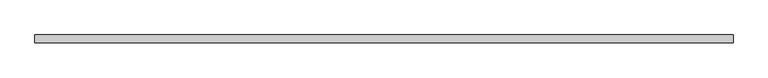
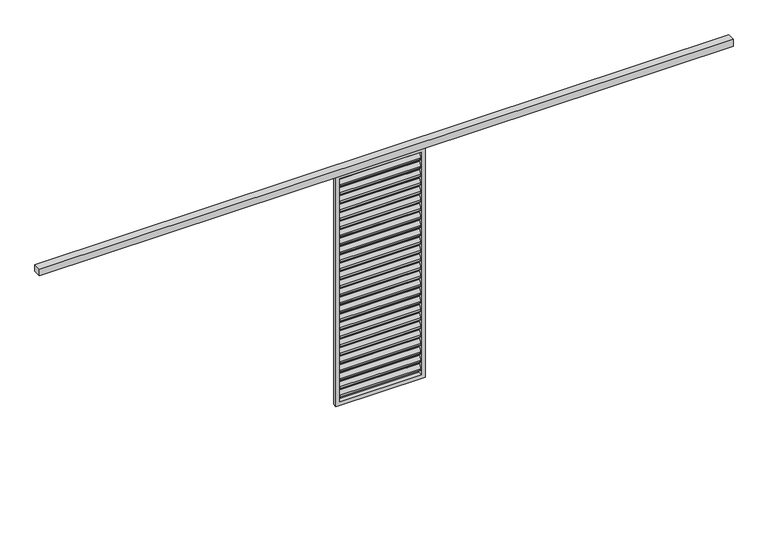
"""IFC4 building model written with IfcOpenShell, lengths in millimetres: proxy geometry, Renson_Amani_Loggia_Paro_Aluminium_Fix : Renson_Amani_Loggia_Paro_Aluminium_Fix."""

from ifc_helpers import new_model, si_unit, point, frame, frame_2d, origin, place, context, project, spatial, polyline, circle_curve, trimmed, segment, composite_curve, outline, extrude, source, transform, mapped, element, save


def generic_models_aef4ee00(model_context):
    return source(origin(), model_context, "Body", "SweptSolid", [
        extrude(outline(polyline([(3550.0, 46.0), (3550.0, -34.0), (-3450.0, -34.0), (-3450.0, 46.0), (3550.0, 46.0)])), frame((0.0, 0.0, 2500.0), z_axis=(0.0, 0.0, 1.0), x_axis=(1.0, 0.0, 0.0)), (0.0, 0.0, 1.0), 70.0),
        extrude(outline(composite_curve([segment(trimmed(circle_curve(frame_2d((12.6675921, 2432.6587719)), 3.0), [point((10.1515804, 2434.292689))], [point((15.6675921, 2432.6587719))], False, "CARTESIAN"), True, "CONTINUOUS"), segment(polyline([(15.6675921, 2432.6587719), (15.6675921, 2414.2979873)]), True, "CONTINUOUS"), segment(trimmed(circle_curve(frame_2d((12.6675921, 2414.2979873)), 3.0), [point((15.6675921, 2414.2979873))], [point((15.1836038, 2412.6640702))], False, "CARTESIAN"), True, "CONTINUOUS"), segment(polyline([(15.1836038, 2412.6640702), (-8.8163962, 2375.707311)]), True, "CONTINUOUS"), segment(trimmed(circle_curve(frame_2d((-11.3324079, 2377.3412281)), 3.0), [point((-8.8163962, 2375.707311))], [point((-14.3324079, 2377.3412281))], False, "CARTESIAN"), True, "CONTINUOUS"), segment(polyline([(-14.3324079, 2377.3412281), (-14.3324079, 2396.5906532), (10.1515804, 2434.292689)]), True, "CONTINUOUS")], self_intersect=False)), frame((-410.0, 0.0, 0.0), z_axis=(1.0, 0.0, 0.0), x_axis=(0.0, 1.0, 0.0)), (0.0, 0.0, 1.0), 820.0),
        extrude(outline(composite_curve([segment(trimmed(circle_curve(frame_2d((12.6675921, 2342.6587719)), 3.0), [point((10.1515804, 2344.292689))], [point((15.6675921, 2342.6587719))], False, "CARTESIAN"), True, "CONTINUOUS"), segment(polyline([(15.6675921, 2342.6587719), (15.6675921, 2324.2979873)]), True, "CONTINUOUS"), segment(trimmed(circle_curve(frame_2d((12.6675921, 2324.2979873)), 3.0), [point((15.6675921, 2324.2979873))], [point((15.1836038, 2322.6640702))], False, "CARTESIAN"), True, "CONTINUOUS"), segment(polyline([(15.1836038, 2322.6640702), (-8.8163962, 2285.707311)]), True, "CONTINUOUS"), segment(trimmed(circle_curve(frame_2d((-11.3324079, 2287.3412281)), 3.0), [point((-8.8163962, 2285.707311))], [point((-14.3324079, 2287.3412281))], False, "CARTESIAN"), True, "CONTINUOUS"), segment(polyline([(-14.3324079, 2287.3412281), (-14.3324079, 2306.5906532), (10.1515804, 2344.292689)]), True, "CONTINUOUS")], self_intersect=False)), frame((-410.0, 0.0, 0.0), z_axis=(1.0, 0.0, 0.0), x_axis=(0.0, 1.0, 0.0)), (0.0, 0.0, 1.0), 820.0),
        extrude(outline(composite_curve([segment(trimmed(circle_curve(frame_2d((12.6675921, 2252.6587719)), 3.0), [point((10.1515804, 2254.292689))], [point((15.6675921, 2252.6587719))], False, "CARTESIAN"), True, "CONTINUOUS"), segment(polyline([(15.6675921, 2252.6587719), (15.6675921, 2234.2979873)]), True, "CONTINUOUS"), segment(trimmed(circle_curve(frame_2d((12.6675921, 2234.2979873)), 3.0), [point((15.6675921, 2234.2979873))], [point((15.1836038, 2232.6640702))], False, "CARTESIAN"), True, "CONTINUOUS"), segment(polyline([(15.1836038, 2232.6640702), (-8.8163962, 2195.707311)]), True, "CONTINUOUS"), segment(trimmed(circle_curve(frame_2d((-11.3324079, 2197.3412281)), 3.0), [point((-8.8163962, 2195.707311))], [point((-14.3324079, 2197.3412281))], False, "CARTESIAN"), True, "CONTINUOUS"), segment(polyline([(-14.3324079, 2197.3412281), (-14.3324079, 2216.5906532), (10.1515804, 2254.292689)]), True, "CONTINUOUS")], self_intersect=False)), frame((-410.0, 0.0, 0.0), z_axis=(1.0, 0.0, 0.0), x_axis=(0.0, 1.0, 0.0)), (0.0, 0.0, 1.0), 820.0),
        extrude(outline(composite_curve([segment(trimmed(circle_curve(frame_2d((12.6675921, 2162.6587719)), 3.0), [point((10.1515804, 2164.292689))], [point((15.6675921, 2162.6587719))], False, "CARTESIAN"), True, "CONTINUOUS"), segment(polyline([(15.6675921, 2162.6587719), (15.6675921, 2144.2979873)]), True, "CONTINUOUS"), segment(trimmed(circle_curve(frame_2d((12.6675921, 2144.2979873)), 3.0), [point((15.6675921, 2144.2979873))], [point((15.1836038, 2142.6640702))], False, "CARTESIAN"), True, "CONTINUOUS"), segment(polyline([(15.1836038, 2142.6640702), (-8.8163962, 2105.707311)]), True, "CONTINUOUS"), segment(trimmed(circle_curve(frame_2d((-11.3324079, 2107.3412281)), 3.0), [point((-8.8163962, 2105.707311))], [point((-14.3324079, 2107.3412281))], False, "CARTESIAN"), True, "CONTINUOUS"), segment(polyline([(-14.3324079, 2107.3412281), (-14.3324079, 2126.5906532), (10.1515804, 2164.292689)]), True, "CONTINUOUS")], self_intersect=False)), frame((-410.0, 0.0, 0.0), z_axis=(1.0, 0.0, 0.0), x_axis=(0.0, 1.0, 0.0)), (0.0, 0.0, 1.0), 820.0),
        extrude(outline(composite_curve([segment(trimmed(circle_curve(frame_2d((12.6675921, 2072.6587719)), 3.0), [point((10.1515804, 2074.292689))], [point((15.6675921, 2072.6587719))], False, "CARTESIAN"), True, "CONTINUOUS"), segment(polyline([(15.6675921, 2072.6587719), (15.6675921, 2054.2979873)]), True, "CONTINUOUS"), segment(trimmed(circle_curve(frame_2d((12.6675921, 2054.2979873)), 3.0), [point((15.6675921, 2054.2979873))], [point((15.1836038, 2052.6640702))], False, "CARTESIAN"), True, "CONTINUOUS"), segment(polyline([(15.1836038, 2052.6640702), (-8.8163962, 2015.707311)]), True, "CONTINUOUS"), segment(trimmed(circle_curve(frame_2d((-11.3324079, 2017.3412281)), 3.0), [point((-8.8163962, 2015.707311))], [point((-14.3324079, 2017.3412281))], False, "CARTESIAN"), True, "CONTINUOUS"), segment(polyline([(-14.3324079, 2017.3412281), (-14.3324079, 2036.5906532), (10.1515804, 2074.292689)]), True, "CONTINUOUS")], self_intersect=False)), frame((-410.0, 0.0, 0.0), z_axis=(1.0, 0.0, 0.0), x_axis=(0.0, 1.0, 0.0)), (0.0, 0.0, 1.0), 820.0),
        extrude(outline(composite_curve([segment(trimmed(circle_curve(frame_2d((12.6675921, 1982.6587719)), 3.0), [point((10.1515804, 1984.292689))], [point((15.6675921, 1982.6587719))], False, "CARTESIAN"), True, "CONTINUOUS"), segment(polyline([(15.6675921, 1982.6587719), (15.6675921, 1964.2979873)]), True, "CONTINUOUS"), segment(trimmed(circle_curve(frame_2d((12.6675921, 1964.2979873)), 3.0), [point((15.6675921, 1964.2979873))], [point((15.1836038, 1962.6640702))], False, "CARTESIAN"), True, "CONTINUOUS"), segment(polyline([(15.1836038, 1962.6640702), (-8.8163962, 1925.707311)]), True, "CONTINUOUS"), segment(trimmed(circle_curve(frame_2d((-11.3324079, 1927.3412281)), 3.0), [point((-8.8163962, 1925.707311))], [point((-14.3324079, 1927.3412281))], False, "CARTESIAN"), True, "CONTINUOUS"), segment(polyline([(-14.3324079, 1927.3412281), (-14.3324079, 1946.5906532), (10.1515804, 1984.292689)]), True, "CONTINUOUS")], self_intersect=False)), frame((-410.0, 0.0, 0.0), z_axis=(1.0, 0.0, 0.0), x_axis=(0.0, 1.0, 0.0)), (0.0, 0.0, 1.0), 820.0),
        extrude(outline(composite_curve([segment(trimmed(circle_curve(frame_2d((12.6675921, 1892.6587719)), 3.0), [point((10.1515804, 1894.292689))], [point((15.6675921, 1892.6587719))], False, "CARTESIAN"), True, "CONTINUOUS"), segment(polyline([(15.6675921, 1892.6587719), (15.6675921, 1874.2979873)]), True, "CONTINUOUS"), segment(trimmed(circle_curve(frame_2d((12.6675921, 1874.2979873)), 3.0), [point((15.6675921, 1874.2979873))], [point((15.1836038, 1872.6640702))], False, "CARTESIAN"), True, "CONTINUOUS"), segment(polyline([(15.1836038, 1872.6640702), (-8.8163962, 1835.707311)]), True, "CONTINUOUS"), segment(trimmed(circle_curve(frame_2d((-11.3324079, 1837.3412281)), 3.0), [point((-8.8163962, 1835.707311))], [point((-14.3324079, 1837.3412281))], False, "CARTESIAN"), True, "CONTINUOUS"), segment(polyline([(-14.3324079, 1837.3412281), (-14.3324079, 1856.5906532), (10.1515804, 1894.292689)]), True, "CONTINUOUS")], self_intersect=False)), frame((-410.0, 0.0, 0.0), z_axis=(1.0, 0.0, 0.0), x_axis=(0.0, 1.0, 0.0)), (0.0, 0.0, 1.0), 820.0),
        extrude(outline(composite_curve([segment(trimmed(circle_curve(frame_2d((12.6675921, 1802.6587719)), 3.0), [point((10.1515804, 1804.292689))], [point((15.6675921, 1802.6587719))], False, "CARTESIAN"), True, "CONTINUOUS"), segment(polyline([(15.6675921, 1802.6587719), (15.6675921, 1784.2979873)]), True, "CONTINUOUS"), segment(trimmed(circle_curve(frame_2d((12.6675921, 1784.2979873)), 3.0), [point((15.6675921, 1784.2979873))], [point((15.1836038, 1782.6640702))], False, "CARTESIAN"), True, "CONTINUOUS"), segment(polyline([(15.1836038, 1782.6640702), (-8.8163962, 1745.707311)]), True, "CONTINUOUS"), segment(trimmed(circle_curve(frame_2d((-11.3324079, 1747.3412281)), 3.0), [point((-8.8163962, 1745.707311))], [point((-14.3324079, 1747.3412281))], False, "CARTESIAN"), True, "CONTINUOUS"), segment(polyline([(-14.3324079, 1747.3412281), (-14.3324079, 1766.5906532), (10.1515804, 1804.292689)]), True, "CONTINUOUS")], self_intersect=False)), frame((-410.0, 0.0, 0.0), z_axis=(1.0, 0.0, 0.0), x_axis=(0.0, 1.0, 0.0)), (0.0, 0.0, 1.0), 820.0),
        extrude(outline(composite_curve([segment(trimmed(circle_curve(frame_2d((12.6675921, 1712.6587719)), 3.0), [point((10.1515804, 1714.292689))], [point((15.6675921, 1712.6587719))], False, "CARTESIAN"), True, "CONTINUOUS"), segment(polyline([(15.6675921, 1712.6587719), (15.6675921, 1694.2979873)]), True, "CONTINUOUS"), segment(trimmed(circle_curve(frame_2d((12.6675921, 1694.2979873)), 3.0), [point((15.6675921, 1694.2979873))], [point((15.1836038, 1692.6640702))], False, "CARTESIAN"), True, "CONTINUOUS"), segment(polyline([(15.1836038, 1692.6640702), (-8.8163962, 1655.707311)]), True, "CONTINUOUS"), segment(trimmed(circle_curve(frame_2d((-11.3324079, 1657.3412281)), 3.0), [point((-8.8163962, 1655.707311))], [point((-14.3324079, 1657.3412281))], False, "CARTESIAN"), True, "CONTINUOUS"), segment(polyline([(-14.3324079, 1657.3412281), (-14.3324079, 1676.5906532), (10.1515804, 1714.292689)]), True, "CONTINUOUS")], self_intersect=False)), frame((-410.0, 0.0, 0.0), z_axis=(1.0, 0.0, 0.0), x_axis=(0.0, 1.0, 0.0)), (0.0, 0.0, 1.0), 820.0),
        extrude(outline(composite_curve([segment(trimmed(circle_curve(frame_2d((12.6675921, 1622.6587719)), 3.0), [point((10.1515804, 1624.292689))], [point((15.6675921, 1622.6587719))], False, "CARTESIAN"), True, "CONTINUOUS"), segment(polyline([(15.6675921, 1622.6587719), (15.6675921, 1604.2979873)]), True, "CONTINUOUS"), segment(trimmed(circle_curve(frame_2d((12.6675921, 1604.2979873)), 3.0), [point((15.6675921, 1604.2979873))], [point((15.1836038, 1602.6640702))], False, "CARTESIAN"), True, "CONTINUOUS"), segment(polyline([(15.1836038, 1602.6640702), (-8.8163962, 1565.707311)]), True, "CONTINUOUS"), segment(trimmed(circle_curve(frame_2d((-11.3324079, 1567.3412281)), 3.0), [point((-8.8163962, 1565.707311))], [point((-14.3324079, 1567.3412281))], False, "CARTESIAN"), True, "CONTINUOUS"), segment(polyline([(-14.3324079, 1567.3412281), (-14.3324079, 1586.5906532), (10.1515804, 1624.292689)]), True, "CONTINUOUS")], self_intersect=False)), frame((-410.0, 0.0, 0.0), z_axis=(1.0, 0.0, 0.0), x_axis=(0.0, 1.0, 0.0)), (0.0, 0.0, 1.0), 820.0),
        extrude(outline(composite_curve([segment(trimmed(circle_curve(frame_2d((12.6675921, 1532.6587719)), 3.0), [point((10.1515804, 1534.292689))], [point((15.6675921, 1532.6587719))], False, "CARTESIAN"), True, "CONTINUOUS"), segment(polyline([(15.6675921, 1532.6587719), (15.6675921, 1514.2979873)]), True, "CONTINUOUS"), segment(trimmed(circle_curve(frame_2d((12.6675921, 1514.2979873)), 3.0), [point((15.6675921, 1514.2979873))], [point((15.1836038, 1512.6640702))], False, "CARTESIAN"), True, "CONTINUOUS"), segment(polyline([(15.1836038, 1512.6640702), (-8.8163962, 1475.707311)]), True, "CONTINUOUS"), segment(trimmed(circle_curve(frame_2d((-11.3324079, 1477.3412281)), 3.0), [point((-8.8163962, 1475.707311))], [point((-14.3324079, 1477.3412281))], False, "CARTESIAN"), True, "CONTINUOUS"), segment(polyline([(-14.3324079, 1477.3412281), (-14.3324079, 1496.5906532), (10.1515804, 1534.292689)]), True, "CONTINUOUS")], self_intersect=False)), frame((-410.0, 0.0, 0.0), z_axis=(1.0, 0.0, 0.0), x_axis=(0.0, 1.0, 0.0)), (0.0, 0.0, 1.0), 820.0),
        extrude(outline(composite_curve([segment(trimmed(circle_curve(frame_2d((12.6675921, 1442.6587719)), 3.0), [point((10.1515804, 1444.292689))], [point((15.6675921, 1442.6587719))], False, "CARTESIAN"), True, "CONTINUOUS"), segment(polyline([(15.6675921, 1442.6587719), (15.6675921, 1424.2979873)]), True, "CONTINUOUS"), segment(trimmed(circle_curve(frame_2d((12.6675921, 1424.2979873)), 3.0), [point((15.6675921, 1424.2979873))], [point((15.1836038, 1422.6640702))], False, "CARTESIAN"), True, "CONTINUOUS"), segment(polyline([(15.1836038, 1422.6640702), (-8.8163962, 1385.707311)]), True, "CONTINUOUS"), segment(trimmed(circle_curve(frame_2d((-11.3324079, 1387.3412281)), 3.0), [point((-8.8163962, 1385.707311))], [point((-14.3324079, 1387.3412281))], False, "CARTESIAN"), True, "CONTINUOUS"), segment(polyline([(-14.3324079, 1387.3412281), (-14.3324079, 1406.5906532), (10.1515804, 1444.292689)]), True, "CONTINUOUS")], self_intersect=False)), frame((-410.0, 0.0, 0.0), z_axis=(1.0, 0.0, 0.0), x_axis=(0.0, 1.0, 0.0)), (0.0, 0.0, 1.0), 820.0),
        extrude(outline(composite_curve([segment(trimmed(circle_curve(frame_2d((12.6675921, 1352.6587719)), 3.0), [point((10.1515804, 1354.292689))], [point((15.6675921, 1352.6587719))], False, "CARTESIAN"), True, "CONTINUOUS"), segment(polyline([(15.6675921, 1352.6587719), (15.6675921, 1334.2979873)]), True, "CONTINUOUS"), segment(trimmed(circle_curve(frame_2d((12.6675921, 1334.2979873)), 3.0), [point((15.6675921, 1334.2979873))], [point((15.1836038, 1332.6640702))], False, "CARTESIAN"), True, "CONTINUOUS"), segment(polyline([(15.1836038, 1332.6640702), (-8.8163962, 1295.707311)]), True, "CONTINUOUS"), segment(trimmed(circle_curve(frame_2d((-11.3324079, 1297.3412281)), 3.0), [point((-8.8163962, 1295.707311))], [point((-14.3324079, 1297.3412281))], False, "CARTESIAN"), True, "CONTINUOUS"), segment(polyline([(-14.3324079, 1297.3412281), (-14.3324079, 1316.5906532), (10.1515804, 1354.292689)]), True, "CONTINUOUS")], self_intersect=False)), frame((-410.0, 0.0, 0.0), z_axis=(1.0, 0.0, 0.0), x_axis=(0.0, 1.0, 0.0)), (0.0, 0.0, 1.0), 820.0),
        extrude(outline(composite_curve([segment(trimmed(circle_curve(frame_2d((12.6675921, 1262.6587719)), 3.0), [point((10.1515804, 1264.292689))], [point((15.6675921, 1262.6587719))], False, "CARTESIAN"), True, "CONTINUOUS"), segment(polyline([(15.6675921, 1262.6587719), (15.6675921, 1244.2979873)]), True, "CONTINUOUS"), segment(trimmed(circle_curve(frame_2d((12.6675921, 1244.2979873)), 3.0), [point((15.6675921, 1244.2979873))], [point((15.1836038, 1242.6640702))], False, "CARTESIAN"), True, "CONTINUOUS"), segment(polyline([(15.1836038, 1242.6640702), (-8.8163962, 1205.707311)]), True, "CONTINUOUS"), segment(trimmed(circle_curve(frame_2d((-11.3324079, 1207.3412281)), 3.0), [point((-8.8163962, 1205.707311))], [point((-14.3324079, 1207.3412281))], False, "CARTESIAN"), True, "CONTINUOUS"), segment(polyline([(-14.3324079, 1207.3412281), (-14.3324079, 1226.5906532), (10.1515804, 1264.292689)]), True, "CONTINUOUS")], self_intersect=False)), frame((-410.0, 0.0, 0.0), z_axis=(1.0, 0.0, 0.0), x_axis=(0.0, 1.0, 0.0)), (0.0, 0.0, 1.0), 820.0),
        extrude(outline(composite_curve([segment(trimmed(circle_curve(frame_2d((12.6675921, 1172.6587719)), 3.0), [point((10.1515804, 1174.292689))], [point((15.6675921, 1172.6587719))], False, "CARTESIAN"), True, "CONTINUOUS"), segment(polyline([(15.6675921, 1172.6587719), (15.6675921, 1154.2979873)]), True, "CONTINUOUS"), segment(trimmed(circle_curve(frame_2d((12.6675921, 1154.2979873)), 3.0), [point((15.6675921, 1154.2979873))], [point((15.1836038, 1152.6640702))], False, "CARTESIAN"), True, "CONTINUOUS"), segment(polyline([(15.1836038, 1152.6640702), (-8.8163962, 1115.707311)]), True, "CONTINUOUS"), segment(trimmed(circle_curve(frame_2d((-11.3324079, 1117.3412281)), 3.0), [point((-8.8163962, 1115.707311))], [point((-14.3324079, 1117.3412281))], False, "CARTESIAN"), True, "CONTINUOUS"), segment(polyline([(-14.3324079, 1117.3412281), (-14.3324079, 1136.5906532), (10.1515804, 1174.292689)]), True, "CONTINUOUS")], self_intersect=False)), frame((-410.0, 0.0, 0.0), z_axis=(1.0, 0.0, 0.0), x_axis=(0.0, 1.0, 0.0)), (0.0, 0.0, 1.0), 820.0),
        extrude(outline(composite_curve([segment(trimmed(circle_curve(frame_2d((12.6675921, 1082.6587719)), 3.0), [point((10.1515804, 1084.292689))], [point((15.6675921, 1082.6587719))], False, "CARTESIAN"), True, "CONTINUOUS"), segment(polyline([(15.6675921, 1082.6587719), (15.6675921, 1064.2979873)]), True, "CONTINUOUS"), segment(trimmed(circle_curve(frame_2d((12.6675921, 1064.2979873)), 3.0), [point((15.6675921, 1064.2979873))], [point((15.1836038, 1062.6640702))], False, "CARTESIAN"), True, "CONTINUOUS"), segment(polyline([(15.1836038, 1062.6640702), (-8.8163962, 1025.707311)]), True, "CONTINUOUS"), segment(trimmed(circle_curve(frame_2d((-11.3324079, 1027.3412281)), 3.0), [point((-8.8163962, 1025.707311))], [point((-14.3324079, 1027.3412281))], False, "CARTESIAN"), True, "CONTINUOUS"), segment(polyline([(-14.3324079, 1027.3412281), (-14.3324079, 1046.5906532), (10.1515804, 1084.292689)]), True, "CONTINUOUS")], self_intersect=False)), frame((-410.0, 0.0, 0.0), z_axis=(1.0, 0.0, 0.0), x_axis=(0.0, 1.0, 0.0)), (0.0, 0.0, 1.0), 820.0),
        extrude(outline(composite_curve([segment(trimmed(circle_curve(frame_2d((12.6675921, 992.6587719)), 3.0), [point((10.1515804, 994.292689))], [point((15.6675921, 992.6587719))], False, "CARTESIAN"), True, "CONTINUOUS"), segment(polyline([(15.6675921, 992.6587719), (15.6675921, 974.2979873)]), True, "CONTINUOUS"), segment(trimmed(circle_curve(frame_2d((12.6675921, 974.2979873)), 3.0), [point((15.6675921, 974.2979873))], [point((15.1836038, 972.6640702))], False, "CARTESIAN"), True, "CONTINUOUS"), segment(polyline([(15.1836038, 972.6640702), (-8.8163962, 935.707311)]), True, "CONTINUOUS"), segment(trimmed(circle_curve(frame_2d((-11.3324079, 937.3412281)), 3.0), [point((-8.8163962, 935.707311))], [point((-14.3324079, 937.3412281))], False, "CARTESIAN"), True, "CONTINUOUS"), segment(polyline([(-14.3324079, 937.3412281), (-14.3324079, 956.5906532), (10.1515804, 994.292689)]), True, "CONTINUOUS")], self_intersect=False)), frame((-410.0, 0.0, 0.0), z_axis=(1.0, 0.0, 0.0), x_axis=(0.0, 1.0, 0.0)), (0.0, 0.0, 1.0), 820.0),
        extrude(outline(composite_curve([segment(trimmed(circle_curve(frame_2d((12.6675921, 902.6587719)), 3.0), [point((10.1515804, 904.292689))], [point((15.6675921, 902.6587719))], False, "CARTESIAN"), True, "CONTINUOUS"), segment(polyline([(15.6675921, 902.6587719), (15.6675921, 884.2979873)]), True, "CONTINUOUS"), segment(trimmed(circle_curve(frame_2d((12.6675921, 884.2979873)), 3.0), [point((15.6675921, 884.2979873))], [point((15.1836038, 882.6640702))], False, "CARTESIAN"), True, "CONTINUOUS"), segment(polyline([(15.1836038, 882.6640702), (-8.8163962, 845.707311)]), True, "CONTINUOUS"), segment(trimmed(circle_curve(frame_2d((-11.3324079, 847.3412281)), 3.0), [point((-8.8163962, 845.707311))], [point((-14.3324079, 847.3412281))], False, "CARTESIAN"), True, "CONTINUOUS"), segment(polyline([(-14.3324079, 847.3412281), (-14.3324079, 866.5906532), (10.1515804, 904.292689)]), True, "CONTINUOUS")], self_intersect=False)), frame((-410.0, 0.0, 0.0), z_axis=(1.0, 0.0, 0.0), x_axis=(0.0, 1.0, 0.0)), (0.0, 0.0, 1.0), 820.0),
        extrude(outline(composite_curve([segment(trimmed(circle_curve(frame_2d((12.6675921, 812.6587719)), 3.0), [point((10.1515804, 814.292689))], [point((15.6675921, 812.6587719))], False, "CARTESIAN"), True, "CONTINUOUS"), segment(polyline([(15.6675921, 812.6587719), (15.6675921, 794.2979873)]), True, "CONTINUOUS"), segment(trimmed(circle_curve(frame_2d((12.6675921, 794.2979873)), 3.0), [point((15.6675921, 794.2979873))], [point((15.1836038, 792.6640702))], False, "CARTESIAN"), True, "CONTINUOUS"), segment(polyline([(15.1836038, 792.6640702), (-8.8163962, 755.707311)]), True, "CONTINUOUS"), segment(trimmed(circle_curve(frame_2d((-11.3324079, 757.3412281)), 3.0), [point((-8.8163962, 755.707311))], [point((-14.3324079, 757.3412281))], False, "CARTESIAN"), True, "CONTINUOUS"), segment(polyline([(-14.3324079, 757.3412281), (-14.3324079, 776.5906532), (10.1515804, 814.292689)]), True, "CONTINUOUS")], self_intersect=False)), frame((-410.0, 0.0, 0.0), z_axis=(1.0, 0.0, 0.0), x_axis=(0.0, 1.0, 0.0)), (0.0, 0.0, 1.0), 820.0),
        extrude(outline(composite_curve([segment(trimmed(circle_curve(frame_2d((12.6675921, 722.6587719)), 3.0), [point((10.1515804, 724.292689))], [point((15.6675921, 722.6587719))], False, "CARTESIAN"), True, "CONTINUOUS"), segment(polyline([(15.6675921, 722.6587719), (15.6675921, 704.2979873)]), True, "CONTINUOUS"), segment(trimmed(circle_curve(frame_2d((12.6675921, 704.2979873)), 3.0), [point((15.6675921, 704.2979873))], [point((15.1836038, 702.6640702))], False, "CARTESIAN"), True, "CONTINUOUS"), segment(polyline([(15.1836038, 702.6640702), (-8.8163962, 665.707311)]), True, "CONTINUOUS"), segment(trimmed(circle_curve(frame_2d((-11.3324079, 667.3412281)), 3.0), [point((-8.8163962, 665.707311))], [point((-14.3324079, 667.3412281))], False, "CARTESIAN"), True, "CONTINUOUS"), segment(polyline([(-14.3324079, 667.3412281), (-14.3324079, 686.5906532), (10.1515804, 724.292689)]), True, "CONTINUOUS")], self_intersect=False)), frame((-410.0, 0.0, 0.0), z_axis=(1.0, 0.0, 0.0), x_axis=(0.0, 1.0, 0.0)), (0.0, 0.0, 1.0), 820.0),
        extrude(outline(composite_curve([segment(trimmed(circle_curve(frame_2d((12.6675921, 632.6587719)), 3.0), [point((10.1515804, 634.292689))], [point((15.6675921, 632.6587719))], False, "CARTESIAN"), True, "CONTINUOUS"), segment(polyline([(15.6675921, 632.6587719), (15.6675921, 614.2979873)]), True, "CONTINUOUS"), segment(trimmed(circle_curve(frame_2d((12.6675921, 614.2979873)), 3.0), [point((15.6675921, 614.2979873))], [point((15.1836038, 612.6640702))], False, "CARTESIAN"), True, "CONTINUOUS"), segment(polyline([(15.1836038, 612.6640702), (-8.8163962, 575.707311)]), True, "CONTINUOUS"), segment(trimmed(circle_curve(frame_2d((-11.3324079, 577.3412281)), 3.0), [point((-8.8163962, 575.707311))], [point((-14.3324079, 577.3412281))], False, "CARTESIAN"), True, "CONTINUOUS"), segment(polyline([(-14.3324079, 577.3412281), (-14.3324079, 596.5906532), (10.1515804, 634.292689)]), True, "CONTINUOUS")], self_intersect=False)), frame((-410.0, 0.0, 0.0), z_axis=(1.0, 0.0, 0.0), x_axis=(0.0, 1.0, 0.0)), (0.0, 0.0, 1.0), 820.0),
        extrude(outline(composite_curve([segment(trimmed(circle_curve(frame_2d((12.6675921, 542.6587719)), 3.0), [point((10.1515804, 544.292689))], [point((15.6675921, 542.6587719))], False, "CARTESIAN"), True, "CONTINUOUS"), segment(polyline([(15.6675921, 542.6587719), (15.6675921, 524.2979873)]), True, "CONTINUOUS"), segment(trimmed(circle_curve(frame_2d((12.6675921, 524.2979873)), 3.0), [point((15.6675921, 524.2979873))], [point((15.1836038, 522.6640702))], False, "CARTESIAN"), True, "CONTINUOUS"), segment(polyline([(15.1836038, 522.6640702), (-8.8163962, 485.707311)]), True, "CONTINUOUS"), segment(trimmed(circle_curve(frame_2d((-11.3324079, 487.3412281)), 3.0), [point((-8.8163962, 485.707311))], [point((-14.3324079, 487.3412281))], False, "CARTESIAN"), True, "CONTINUOUS"), segment(polyline([(-14.3324079, 487.3412281), (-14.3324079, 506.5906532), (10.1515804, 544.292689)]), True, "CONTINUOUS")], self_intersect=False)), frame((-410.0, 0.0, 0.0), z_axis=(1.0, 0.0, 0.0), x_axis=(0.0, 1.0, 0.0)), (0.0, 0.0, 1.0), 820.0),
        extrude(outline(composite_curve([segment(trimmed(circle_curve(frame_2d((12.6675921, 452.6587719)), 3.0), [point((10.1515804, 454.292689))], [point((15.6675921, 452.6587719))], False, "CARTESIAN"), True, "CONTINUOUS"), segment(polyline([(15.6675921, 452.6587719), (15.6675921, 434.2979873)]), True, "CONTINUOUS"), segment(trimmed(circle_curve(frame_2d((12.6675921, 434.2979873)), 3.0), [point((15.6675921, 434.2979873))], [point((15.1836038, 432.6640702))], False, "CARTESIAN"), True, "CONTINUOUS"), segment(polyline([(15.1836038, 432.6640702), (-8.8163962, 395.707311)]), True, "CONTINUOUS"), segment(trimmed(circle_curve(frame_2d((-11.3324079, 397.3412281)), 3.0), [point((-8.8163962, 395.707311))], [point((-14.3324079, 397.3412281))], False, "CARTESIAN"), True, "CONTINUOUS"), segment(polyline([(-14.3324079, 397.3412281), (-14.3324079, 416.5906532), (10.1515804, 454.292689)]), True, "CONTINUOUS")], self_intersect=False)), frame((-410.0, 0.0, 0.0), z_axis=(1.0, 0.0, 0.0), x_axis=(0.0, 1.0, 0.0)), (0.0, 0.0, 1.0), 820.0),
        extrude(outline(composite_curve([segment(trimmed(circle_curve(frame_2d((12.6675921, 362.6587719)), 3.0), [point((10.1515804, 364.292689))], [point((15.6675921, 362.6587719))], False, "CARTESIAN"), True, "CONTINUOUS"), segment(polyline([(15.6675921, 362.6587719), (15.6675921, 344.2979873)]), True, "CONTINUOUS"), segment(trimmed(circle_curve(frame_2d((12.6675921, 344.2979873)), 3.0), [point((15.6675921, 344.2979873))], [point((15.1836038, 342.6640702))], False, "CARTESIAN"), True, "CONTINUOUS"), segment(polyline([(15.1836038, 342.6640702), (-8.8163962, 305.707311)]), True, "CONTINUOUS"), segment(trimmed(circle_curve(frame_2d((-11.3324079, 307.3412281)), 3.0), [point((-8.8163962, 305.707311))], [point((-14.3324079, 307.3412281))], False, "CARTESIAN"), True, "CONTINUOUS"), segment(polyline([(-14.3324079, 307.3412281), (-14.3324079, 326.5906532), (10.1515804, 364.292689)]), True, "CONTINUOUS")], self_intersect=False)), frame((-410.0, 0.0, 0.0), z_axis=(1.0, 0.0, 0.0), x_axis=(0.0, 1.0, 0.0)), (0.0, 0.0, 1.0), 820.0),
        extrude(outline(composite_curve([segment(trimmed(circle_curve(frame_2d((12.6675921, 272.6587719)), 3.0), [point((10.1515804, 274.292689))], [point((15.6675921, 272.6587719))], False, "CARTESIAN"), True, "CONTINUOUS"), segment(polyline([(15.6675921, 272.6587719), (15.6675921, 254.2979873)]), True, "CONTINUOUS"), segment(trimmed(circle_curve(frame_2d((12.6675921, 254.2979873)), 3.0), [point((15.6675921, 254.2979873))], [point((15.1836038, 252.6640702))], False, "CARTESIAN"), True, "CONTINUOUS"), segment(polyline([(15.1836038, 252.6640702), (-8.8163962, 215.707311)]), True, "CONTINUOUS"), segment(trimmed(circle_curve(frame_2d((-11.3324079, 217.3412281)), 3.0), [point((-8.8163962, 215.707311))], [point((-14.3324079, 217.3412281))], False, "CARTESIAN"), True, "CONTINUOUS"), segment(polyline([(-14.3324079, 217.3412281), (-14.3324079, 236.5906532), (10.1515804, 274.292689)]), True, "CONTINUOUS")], self_intersect=False)), frame((-410.0, 0.0, 0.0), z_axis=(1.0, 0.0, 0.0), x_axis=(0.0, 1.0, 0.0)), (0.0, 0.0, 1.0), 820.0),
        extrude(outline(composite_curve([segment(trimmed(circle_curve(frame_2d((12.6675921, 182.6587719)), 3.0), [point((10.1515804, 184.292689))], [point((15.6675921, 182.6587719))], False, "CARTESIAN"), True, "CONTINUOUS"), segment(polyline([(15.6675921, 182.6587719), (15.6675921, 164.2979873)]), True, "CONTINUOUS"), segment(trimmed(circle_curve(frame_2d((12.6675921, 164.2979873)), 3.0), [point((15.6675921, 164.2979873))], [point((15.1836038, 162.6640702))], False, "CARTESIAN"), True, "CONTINUOUS"), segment(polyline([(15.1836038, 162.6640702), (-8.8163962, 125.707311)]), True, "CONTINUOUS"), segment(trimmed(circle_curve(frame_2d((-11.3324079, 127.3412281)), 3.0), [point((-8.8163962, 125.707311))], [point((-14.3324079, 127.3412281))], False, "CARTESIAN"), True, "CONTINUOUS"), segment(polyline([(-14.3324079, 127.3412281), (-14.3324079, 146.5906532), (10.1515804, 184.292689)]), True, "CONTINUOUS")], self_intersect=False)), frame((-410.0, 0.0, 0.0), z_axis=(1.0, 0.0, 0.0), x_axis=(0.0, 1.0, 0.0)), (0.0, 0.0, 1.0), 820.0),
        extrude(outline(polyline([(2500.0, -450.0), (45.0, -450.0), (45.0, 450.0), (2500.0, 450.0), (2500.0, -450.0)]), holes=[polyline([(2460.0, 410.0), (85.0, 410.0), (85.0, -410.0), (2460.0, -410.0), (2460.0, 410.0)])]), frame((0.0, -20.0, 0.0), z_axis=(0.0, 1.0, 0.0), x_axis=(0.0, 0.0, 1.0)), (0.0, 0.0, 1.0), 40.0),
    ])


if __name__ == "__main__":
    model = new_model("IFC4")
    model_context = context("Model", 3, world=origin())
    ifc_project = project(units=[si_unit("LENGTHUNIT", "METRE", prefix="MILLI")], contexts=[model_context])
    site = spatial("IfcSite", under=ifc_project)
    building = spatial("IfcBuilding", under=site)
    placement = place(None, origin())
    generic_models_shape = generic_models_aef4ee00(model_context)
    element("IfcBuildingElementProxy", 1, Name="Renson_Amani_Loggia_Paro_Aluminium_Fix : Renson_Amani_Loggia_Paro_Aluminium_Fix", ObjectType="Renson_Amani_Loggia_Paro_Aluminium_Fix : Renson_Amani_Loggia_Paro_Aluminium_Fix", at=placement, inside=building, context=model_context, shape_type="MappedRepresentation", body=[
        mapped(generic_models_shape, transform((0.0, 0.0, 0.0), x_axis=(1.0, 0.0, 0.0), y_axis=(0.0, 1.0, 0.0), z_axis=(0.0, 0.0, 1.0))),
    ])
    save(model, "model.ifc")
